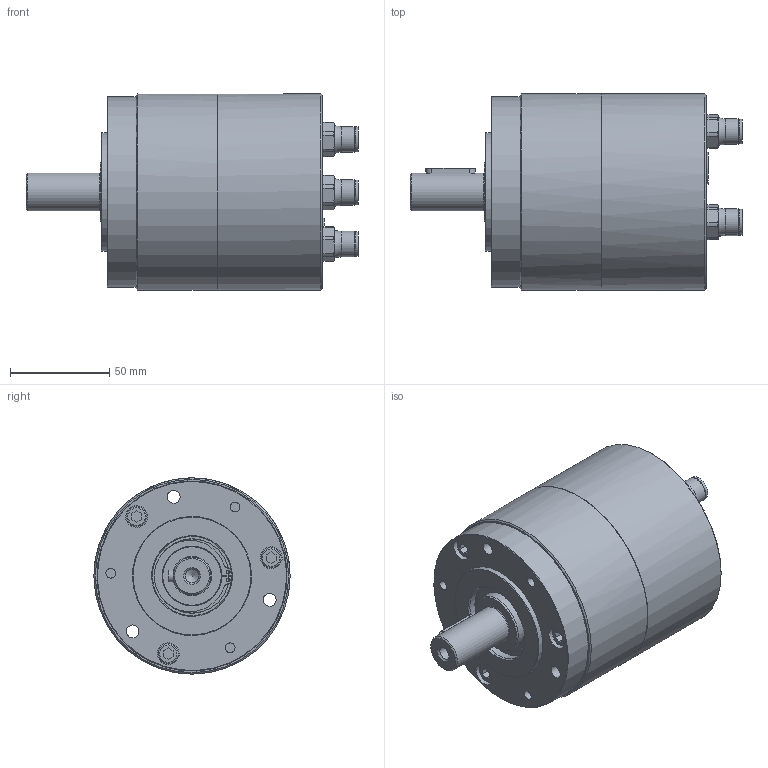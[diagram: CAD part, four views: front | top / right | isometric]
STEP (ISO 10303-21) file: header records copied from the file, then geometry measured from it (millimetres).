
FILE_DESCRIPTION(/* description */ (''),/* implementation_level */ '2;1');
FILE_NAME(/* name */ 'G:\02 CAD Dateien\02 - CAD Schrittmotoren BPS\01 - Standart Produkte\BPS 2532\Verkaufsunterlagen\STEP ab JULI 2017\500-25-380 Schrittmotor BPS-2532.stp',/* time_stamp */ '2017-12-20T15:32:46+01:00',/* author */ ('RSc'),/* organization */ (''),/* preprocessor_version */ 'ST-DEVELOPER v16.1',/* originating_system */ 'Autodesk Inventor 2016',/* authorisation */ '');
FILE_SCHEMA (('AUTOMOTIVE_DESIGN { 1 0 10303 214 3 1 1 }','AP242_MANAGED_MODEL_BASED_3D_ENGINEERING_MIM_LF { 1 0 10303 442 1 1 4 }'));
Length unit declared in the file: millimetre
Products named in the file (1): Bauteil71
Bounding box: 167.5 x 99 x 99 mm (x, y, z)
Volume: 822420.9 mm3; surface area: 75318.5 mm2
Topology: 1 solids, 10 shells, 364 faces, 881 edges, 588 vertices
Faces by surface type: plane 168, cylinder 108, cone 52, bspline 25, torus 11
Full cylindrical faces by diameter (mm): 2 x2, 4 x1, 4.917 x3, 6 x3, 6.5 x6, 6.65 x1, 8 x3, 10 x3, 10.5 x4, 11 x6, 12.5 x3, 13 x3, 15 x1, 16 x2, 19 x1, 20 x1, 27.9 x1, 30 x3, 37.343 x1, 37.543 x1, 40 x1, 42 x1, 48 x1, 51.239 x1, 55 x1, 60 x1, 96 x1, 99 x2
Entity records: 10613 total; most frequent: CARTESIAN_POINT 2201, DIRECTION 1613, ORIENTED_EDGE 1546, EDGE_CURVE 771, AXIS2_PLACEMENT_3D 628, VERTEX_POINT 564, EDGE_LOOP 521, FACE_OUTER_BOUND 364
